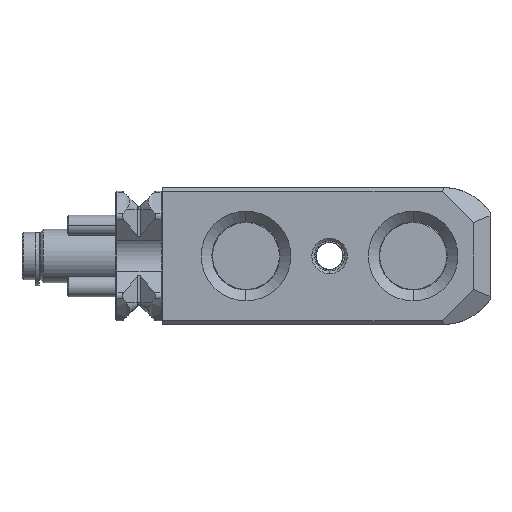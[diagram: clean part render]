
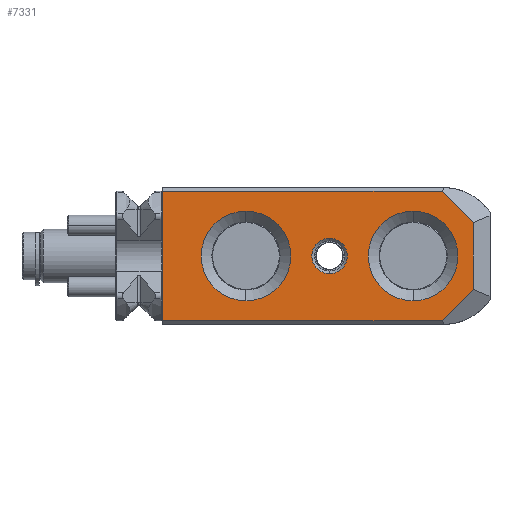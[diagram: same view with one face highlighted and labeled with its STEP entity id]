
A CAD part, left-side view. The second image highlights one B-rep face of the part: STEP entity #7331.
In plain terms, the highlighted planar face has unit normal (-1, 0, 0).
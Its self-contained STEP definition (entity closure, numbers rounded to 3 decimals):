
#284 = FACE_BOUND ( 'NONE', #4098, .T. ) ;
#341 = AXIS2_PLACEMENT_3D ( 'NONE', #16737, #5334, #7026 ) ;
#492 = FACE_BOUND ( 'NONE', #19799, .T. ) ;
#628 = DIRECTION ( 'NONE',  ( 0., 0., -1. ) ) ;
#634 = CARTESIAN_POINT ( 'NONE',  ( -8.5, 24., 2.65 ) ) ;
#1185 = EDGE_CURVE ( 'NONE', #10829, #1639, #17481, .T. ) ;
#1259 = ORIENTED_EDGE ( 'NONE', *, *, #9641, .T. ) ;
#1388 = VECTOR ( 'NONE', #3101, 1000. ) ;
#1639 = VERTEX_POINT ( 'NONE', #18839 ) ;
#1718 = DIRECTION ( 'NONE',  ( 0., -1., 0. ) ) ;
#1833 = DIRECTION ( 'NONE',  ( 0., 0., 1. ) ) ;
#1911 = DIRECTION ( 'NONE',  ( 0., 0., -1. ) ) ;
#2266 = DIRECTION ( 'NONE',  ( 0., 0.707, -0.707 ) ) ;
#2349 = EDGE_CURVE ( 'NONE', #1639, #9554, #5728, .T. ) ;
#2526 = DIRECTION ( 'NONE',  ( 1., 0., 0. ) ) ;
#2668 = AXIS2_PLACEMENT_3D ( 'NONE', #6484, #5215, #12910 ) ;
#2898 = EDGE_CURVE ( 'NONE', #19316, #4729, #8823, .T. ) ;
#3101 = DIRECTION ( 'NONE',  ( 0., 0.707, 0.707 ) ) ;
#3134 = VERTEX_POINT ( 'NONE', #14737 ) ;
#3172 = CARTESIAN_POINT ( 'NONE',  ( -8.5, 36.5, 0. ) ) ;
#3305 = LINE ( 'NONE', #19340, #4082 ) ;
#3651 = FACE_OUTER_BOUND ( 'NONE', #11165, .T. ) ;
#3697 = ORIENTED_EDGE ( 'NONE', *, *, #2898, .T. ) ;
#4082 = VECTOR ( 'NONE', #1718, 1000. ) ;
#4098 = EDGE_LOOP ( 'NONE', ( #8892, #17830 ) ) ;
#4526 = CIRCLE ( 'NONE', #18333, 6.7 ) ;
#4554 = VERTEX_POINT ( 'NONE', #13796 ) ;
#4577 = LINE ( 'NONE', #20514, #1388 ) ;
#4729 = VERTEX_POINT ( 'NONE', #8728 ) ;
#4962 = CARTESIAN_POINT ( 'NONE',  ( -8.5, 11.5, 6.7 ) ) ;
#4980 = CARTESIAN_POINT ( 'NONE',  ( -8.5, 49., -9.65 ) ) ;
#5069 = CARTESIAN_POINT ( 'NONE',  ( -8.5, 49., 9.65 ) ) ;
#5215 = DIRECTION ( 'NONE',  ( 1., 0., 0. ) ) ;
#5288 = CARTESIAN_POINT ( 'NONE',  ( -8.5, 70., -9.65 ) ) ;
#5334 = DIRECTION ( 'NONE',  ( 1., 0., 0. ) ) ;
#5585 = DIRECTION ( 'NONE',  ( 1., 0., 0. ) ) ;
#5728 = LINE ( 'NONE', #9106, #8176 ) ;
#6440 = CARTESIAN_POINT ( 'NONE',  ( -8.5, 2.5, 5. ) ) ;
#6484 = CARTESIAN_POINT ( 'NONE',  ( -8.5, 70., -9.65 ) ) ;
#6644 = DIRECTION ( 'NONE',  ( 0., 0., -1. ) ) ;
#6682 = EDGE_CURVE ( 'NONE', #12225, #10746, #13080, .T. ) ;
#7026 = DIRECTION ( 'NONE',  ( 0., 0., -1. ) ) ;
#7319 = CARTESIAN_POINT ( 'NONE',  ( -8.5, 36.5, 6.7 ) ) ;
#7331 = ADVANCED_FACE ( 'NONE', ( #14931, #492, #284, #3651 ), #18195, .F. ) ;
#7566 = ORIENTED_EDGE ( 'NONE', *, *, #2349, .F. ) ;
#7763 = VECTOR ( 'NONE', #1833, 1000. ) ;
#7805 = DIRECTION ( 'NONE',  ( 1., 0., 0. ) ) ;
#8129 = EDGE_CURVE ( 'NONE', #10829, #3134, #4577, .T. ) ;
#8176 = VECTOR ( 'NONE', #2266, 1000. ) ;
#8459 = LINE ( 'NONE', #5288, #10420 ) ;
#8467 = EDGE_CURVE ( 'NONE', #10837, #3134, #3305, .T. ) ;
#8611 = EDGE_CURVE ( 'NONE', #4554, #10837, #19551, .T. ) ;
#8728 = CARTESIAN_POINT ( 'NONE',  ( -8.5, 24., -2.65 ) ) ;
#8823 = CIRCLE ( 'NONE', #19267, 2.65 ) ;
#8842 = VERTEX_POINT ( 'NONE', #12167 ) ;
#8892 = ORIENTED_EDGE ( 'NONE', *, *, #6682, .T. ) ;
#9036 = ORIENTED_EDGE ( 'NONE', *, *, #18459, .T. ) ;
#9106 = CARTESIAN_POINT ( 'NONE',  ( -8.5, 1.463, -3.963 ) ) ;
#9149 = CARTESIAN_POINT ( 'NONE',  ( -8.5, 36.5, 0. ) ) ;
#9278 = ORIENTED_EDGE ( 'NONE', *, *, #8129, .T. ) ;
#9554 = VERTEX_POINT ( 'NONE', #11340 ) ;
#9641 = EDGE_CURVE ( 'NONE', #10886, #8842, #10428, .T. ) ;
#9758 = CARTESIAN_POINT ( 'NONE',  ( -8.5, 2.5, 1. ) ) ;
#10128 = CARTESIAN_POINT ( 'NONE',  ( -8.5, 11.5, 0. ) ) ;
#10420 = VECTOR ( 'NONE', #19647, 1000. ) ;
#10428 = CIRCLE ( 'NONE', #341, 6.7 ) ;
#10746 = VERTEX_POINT ( 'NONE', #20784 ) ;
#10829 = VERTEX_POINT ( 'NONE', #6440 ) ;
#10837 = VERTEX_POINT ( 'NONE', #5069 ) ;
#10886 = VERTEX_POINT ( 'NONE', #4962 ) ;
#10910 = ORIENTED_EDGE ( 'NONE', *, *, #1185, .F. ) ;
#11165 = EDGE_LOOP ( 'NONE', ( #18176, #17060, #7566, #10910, #9278, #13774 ) ) ;
#11250 = DIRECTION ( 'NONE',  ( 1., 0., 0. ) ) ;
#11340 = CARTESIAN_POINT ( 'NONE',  ( -8.5, 7.15, -9.65 ) ) ;
#11515 = AXIS2_PLACEMENT_3D ( 'NONE', #11814, #5585, #16475 ) ;
#11720 = DIRECTION ( 'NONE',  ( 1., 0., 0. ) ) ;
#11814 = CARTESIAN_POINT ( 'NONE',  ( -8.5, 24., 0. ) ) ;
#12167 = CARTESIAN_POINT ( 'NONE',  ( -8.5, 11.5, -6.7 ) ) ;
#12225 = VERTEX_POINT ( 'NONE', #7319 ) ;
#12827 = DIRECTION ( 'NONE',  ( 0., 0., -1. ) ) ;
#12910 = DIRECTION ( 'NONE',  ( 0., 0., -1. ) ) ;
#13080 = CIRCLE ( 'NONE', #18813, 6.7 ) ;
#13774 = ORIENTED_EDGE ( 'NONE', *, *, #8467, .F. ) ;
#13796 = CARTESIAN_POINT ( 'NONE',  ( -8.5, 49., -9.65 ) ) ;
#14737 = CARTESIAN_POINT ( 'NONE',  ( -8.5, 7.15, 9.65 ) ) ;
#14807 = EDGE_CURVE ( 'NONE', #4554, #9554, #8459, .T. ) ;
#14931 = FACE_BOUND ( 'NONE', #17406, .T. ) ;
#15373 = EDGE_CURVE ( 'NONE', #10746, #12225, #17468, .T. ) ;
#15756 = EDGE_CURVE ( 'NONE', #4729, #19316, #19619, .T. ) ;
#15908 = CARTESIAN_POINT ( 'NONE',  ( -8.5, 24., 0. ) ) ;
#16475 = DIRECTION ( 'NONE',  ( 0., 0., -1. ) ) ;
#16737 = CARTESIAN_POINT ( 'NONE',  ( -8.5, 11.5, 0. ) ) ;
#17060 = ORIENTED_EDGE ( 'NONE', *, *, #14807, .T. ) ;
#17406 = EDGE_LOOP ( 'NONE', ( #3697, #19690 ) ) ;
#17468 = CIRCLE ( 'NONE', #19002, 6.7 ) ;
#17481 = LINE ( 'NONE', #9758, #18272 ) ;
#17577 = DIRECTION ( 'NONE',  ( 0., 0., -1. ) ) ;
#17830 = ORIENTED_EDGE ( 'NONE', *, *, #15373, .T. ) ;
#18176 = ORIENTED_EDGE ( 'NONE', *, *, #8611, .F. ) ;
#18195 = PLANE ( 'NONE',  #2668 ) ;
#18272 = VECTOR ( 'NONE', #17577, 1000. ) ;
#18333 = AXIS2_PLACEMENT_3D ( 'NONE', #10128, #11720, #1911 ) ;
#18459 = EDGE_CURVE ( 'NONE', #8842, #10886, #4526, .T. ) ;
#18813 = AXIS2_PLACEMENT_3D ( 'NONE', #9149, #2526, #628 ) ;
#18839 = CARTESIAN_POINT ( 'NONE',  ( -8.5, 2.5, -5. ) ) ;
#19002 = AXIS2_PLACEMENT_3D ( 'NONE', #3172, #7805, #6644 ) ;
#19267 = AXIS2_PLACEMENT_3D ( 'NONE', #15908, #11250, #12827 ) ;
#19316 = VERTEX_POINT ( 'NONE', #634 ) ;
#19340 = CARTESIAN_POINT ( 'NONE',  ( -8.5, 70., 9.65 ) ) ;
#19551 = LINE ( 'NONE', #4980, #7763 ) ;
#19619 = CIRCLE ( 'NONE', #11515, 2.65 ) ;
#19647 = DIRECTION ( 'NONE',  ( 0., -1., 0. ) ) ;
#19690 = ORIENTED_EDGE ( 'NONE', *, *, #15756, .T. ) ;
#19799 = EDGE_LOOP ( 'NONE', ( #1259, #9036 ) ) ;
#20514 = CARTESIAN_POINT ( 'NONE',  ( -8.5, 1.463, 3.963 ) ) ;
#20784 = CARTESIAN_POINT ( 'NONE',  ( -8.5, 36.5, -6.7 ) ) ;
